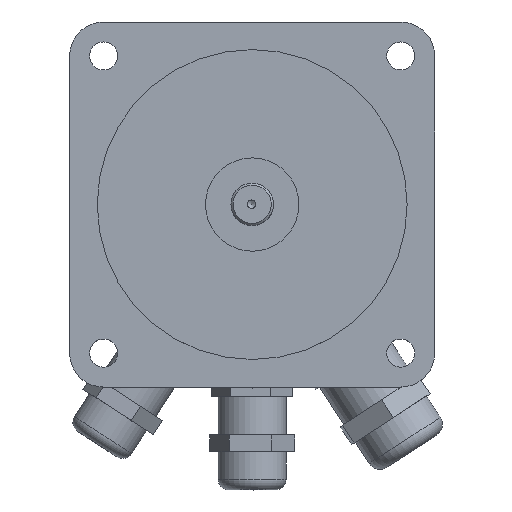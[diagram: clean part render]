
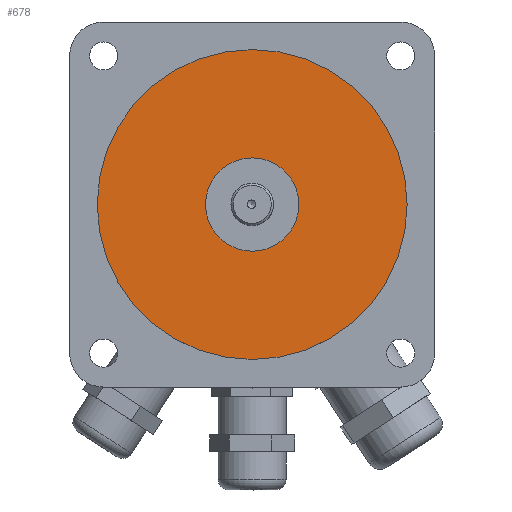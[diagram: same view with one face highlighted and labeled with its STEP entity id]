
A CAD part, top view. The second image highlights one B-rep face of the part: STEP entity #678.
In plain terms, the highlighted planar face has unit normal (0, 0, 1).
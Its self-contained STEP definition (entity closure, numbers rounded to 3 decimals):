
#651=CARTESIAN_POINT('',(0.0,0.0,54.5));
#652=DIRECTION('',(0.0,0.0,-1.0));
#653=DIRECTION('',(1.0,0.0,0.0));
#654=AXIS2_PLACEMENT_3D('',#651,#652,#653);
#655=PLANE('',#654);
#656=CARTESIAN_POINT('',(-36.5,0.,54.5));
#657=VERTEX_POINT('',#656);
#658=CARTESIAN_POINT('',(0.0,0.0,54.5));
#659=DIRECTION('',(0.0,0.0,-1.0));
#660=DIRECTION('',(1.0,0.0,0.0));
#661=AXIS2_PLACEMENT_3D('',#658,#659,#660);
#662=CIRCLE('',#661,36.5);
#663=EDGE_CURVE('',#657,#657,#662,.T.);
#664=ORIENTED_EDGE('',*,*,#663,.F.);
#665=EDGE_LOOP('',(#664));
#666=FACE_OUTER_BOUND('',#665,.T.);
#667=CARTESIAN_POINT('',(-11.0,0.,54.5));
#668=VERTEX_POINT('',#667);
#669=CARTESIAN_POINT('',(0.0,0.0,54.5));
#670=DIRECTION('',(0.0,0.0,-1.0));
#671=DIRECTION('',(1.0,0.0,0.0));
#672=AXIS2_PLACEMENT_3D('',#669,#670,#671);
#673=CIRCLE('',#672,11.0);
#674=EDGE_CURVE('',#668,#668,#673,.T.);
#675=ORIENTED_EDGE('',*,*,#674,.T.);
#676=EDGE_LOOP('',(#675));
#677=FACE_BOUND('',#676,.T.);
#678=ADVANCED_FACE('',(#666,#677),#655,.F.);
